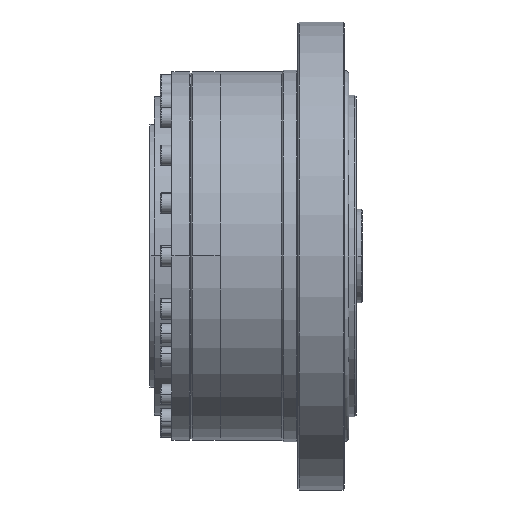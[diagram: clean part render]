
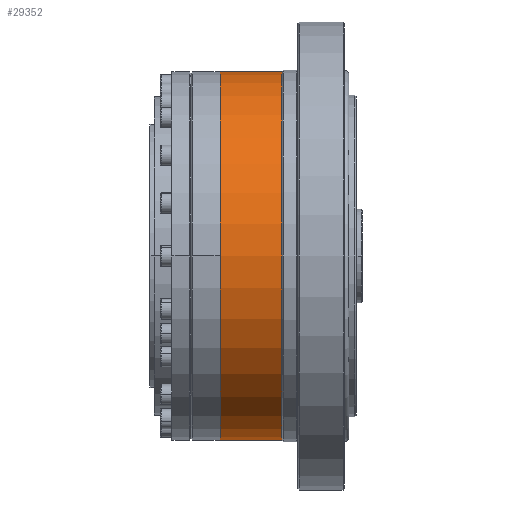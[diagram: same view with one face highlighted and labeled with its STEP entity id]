
A CAD part, front view. The second image highlights one B-rep face of the part: STEP entity #29352.
In plain terms, the highlighted cylindrical face has radius 63 mm (diameter 126 mm), a partial arc.
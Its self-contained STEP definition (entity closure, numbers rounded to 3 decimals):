
#570 = VECTOR ( 'NONE', #45615, 1000. ) ;
#1689 = CYLINDRICAL_SURFACE ( 'NONE', #29565, 63. ) ;
#2777 = AXIS2_PLACEMENT_3D ( 'NONE', #16420, #42695, #20200 ) ;
#3105 = DIRECTION ( 'NONE',  ( -1., 0., 0. ) ) ;
#6521 = EDGE_LOOP ( 'NONE', ( #9134, #10875, #16660, #17213 ) ) ;
#7963 = VECTOR ( 'NONE', #3105, 1000. ) ;
#9134 = ORIENTED_EDGE ( 'NONE', *, *, #28966, .F. ) ;
#9360 = LINE ( 'NONE', #12962, #570 ) ;
#10636 = CIRCLE ( 'NONE', #2777, 63. ) ;
#10875 = ORIENTED_EDGE ( 'NONE', *, *, #17145, .T. ) ;
#12962 = CARTESIAN_POINT ( 'NONE',  ( 0., 0., -63. ) ) ;
#15395 = CARTESIAN_POINT ( 'NONE',  ( 2.2, 0., 63. ) ) ;
#16420 = CARTESIAN_POINT ( 'NONE',  ( 2.2, 0., 0. ) ) ;
#16660 = ORIENTED_EDGE ( 'NONE', *, *, #25461, .T. ) ;
#17145 = EDGE_CURVE ( 'NONE', #27988, #32312, #30037, .T. ) ;
#17213 = ORIENTED_EDGE ( 'NONE', *, *, #35206, .F. ) ;
#17927 = LINE ( 'NONE', #25574, #7963 ) ;
#18171 = DIRECTION ( 'NONE',  ( -1., 0., 0. ) ) ;
#20200 = DIRECTION ( 'NONE',  ( 0., 0., 1. ) ) ;
#21903 = DIRECTION ( 'NONE',  ( 0., 0., 1. ) ) ;
#22447 = CARTESIAN_POINT ( 'NONE',  ( 2.2, 0., -63. ) ) ;
#25136 = AXIS2_PLACEMENT_3D ( 'NONE', #40655, #18171, #44455 ) ;
#25461 = EDGE_CURVE ( 'NONE', #32312, #43992, #17927, .T. ) ;
#25574 = CARTESIAN_POINT ( 'NONE',  ( 0., 0., 63. ) ) ;
#27988 = VERTEX_POINT ( 'NONE', #48631 ) ;
#28966 = EDGE_CURVE ( 'NONE', #27988, #44846, #9360, .T. ) ;
#29352 = ADVANCED_FACE ( 'NONE', ( #41618 ), #1689, .T. ) ;
#29565 = AXIS2_PLACEMENT_3D ( 'NONE', #40596, #48106, #21903 ) ;
#30037 = CIRCLE ( 'NONE', #25136, 63. ) ;
#32312 = VERTEX_POINT ( 'NONE', #41957 ) ;
#35206 = EDGE_CURVE ( 'NONE', #44846, #43992, #10636, .T. ) ;
#40596 = CARTESIAN_POINT ( 'NONE',  ( 0., 0., 0. ) ) ;
#40655 = CARTESIAN_POINT ( 'NONE',  ( 23.2, 0., 0. ) ) ;
#41618 = FACE_OUTER_BOUND ( 'NONE', #6521, .T. ) ;
#41957 = CARTESIAN_POINT ( 'NONE',  ( 23.2, 0., 63. ) ) ;
#42695 = DIRECTION ( 'NONE',  ( -1., 0., 0. ) ) ;
#43992 = VERTEX_POINT ( 'NONE', #15395 ) ;
#44455 = DIRECTION ( 'NONE',  ( 0., 0., 1. ) ) ;
#44846 = VERTEX_POINT ( 'NONE', #22447 ) ;
#45615 = DIRECTION ( 'NONE',  ( -1., 0., 0. ) ) ;
#48106 = DIRECTION ( 'NONE',  ( -1., 0., 0. ) ) ;
#48631 = CARTESIAN_POINT ( 'NONE',  ( 23.2, 0., -63. ) ) ;
